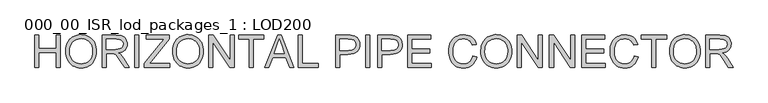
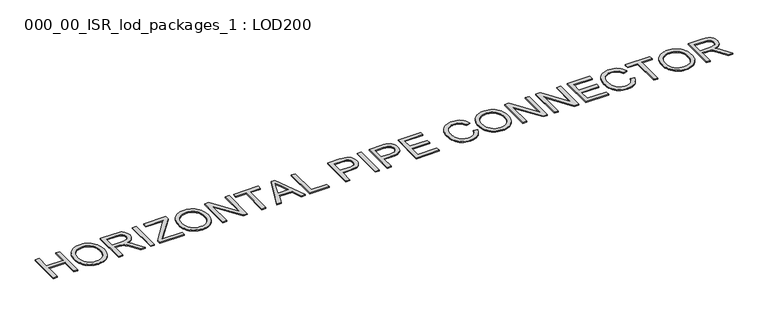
"""IFC4 building model written with IfcOpenShell, lengths in millimetres: proxy geometry, 000_00_ISR_lod_packages_1 : LOD200."""

from ifc_helpers import new_model, si_unit, origin, origin_with_axes, place, context, project, spatial, polyline, outline, extrude, source, transform, mapped, element, save


def proxy_000_00_isr_lod_packages_1_lod200_c8bb9399(model_context):
    return source(origin(), model_context, "Body", "SweptSolid", [
        extrude(outline(polyline([(587.4331389, 500.0), (587.4331389, 1299.3886983), (687.3567262, 1299.3886983), (687.3567262, 974.6370396), (1112.0319722, 974.6370396), (1112.0319722, 1299.3886983), (1211.9555595, 1299.3886983), (1211.9555595, 500.0), (1112.0319722, 500.0), (1112.0319722, 874.7134523), (687.3567262, 874.7134523), (687.3567262, 500.0), (587.4331389, 500.0)])), origin_with_axes(), (0.0, 0.0, 1.0), 25.0),
        extrude(outline(polyline([(1349.350492, 889.1555333), (1351.0154785, 937.3822036), (1356.0104381, 982.9192803), (1364.3353708, 1025.7667634), (1375.9902765, 1065.9246528), (1390.9751553, 1103.3929486), (1409.2900071, 1138.1716508), (1430.934832, 1170.2607594), (1455.90963, 1199.6602743), (1483.5160825, 1225.9615725), (1513.055871, 1248.756031), (1544.5289955, 1268.0436497), (1577.9354561, 1283.8244286), (1613.2752526, 1296.0983678), (1650.5483852, 1304.8654672), (1689.7548537, 1310.1257269), (1730.8946583, 1311.8791468), (1784.6743332, 1308.5857668), (1835.7461178, 1298.7056269), (1884.1100123, 1282.2387272), (1929.7660166, 1259.1850675), (1971.4333719, 1230.239917), (2007.8313192, 1196.0985449), (2038.9598586, 1156.760951), (2064.8189901, 1112.2271354), (2085.1403641, 1063.5095075), (2099.6556313, 1011.6204767), (2108.3647917, 956.560043), (2111.2678451, 898.3282064), (2108.2123204, 839.3279144), (2099.0457462, 783.5234208), (2083.7681225, 730.9147255), (2062.3794494, 681.5018285), (2035.3859315, 636.5898841), (2003.2937735, 597.4840466), (1966.1029754, 564.184316), (1923.8135373, 536.6906922), (1878.0904456, 515.1739432), (1830.5986869, 499.8048367), (1781.3382612, 490.5833729), (1730.3091685, 487.5095516), (1675.5902705, 490.906612), (1623.8476122, 501.0977933), (1575.0811935, 518.0830955), (1529.2910144, 541.8625185), (1487.67245, 571.5151358), (1451.4208751, 606.1200207), (1420.5362898, 645.6771732), (1395.018694, 690.1865934), (1375.0388556, 737.8613176), (1360.7675425, 786.9143824), (1352.2047546, 837.3457876), (1349.350492, 889.1555333)]), holes=[polyline([(1449.2740793, 888.179717), (1454.2690389, 821.9339892), (1469.2539177, 763.1288605), (1494.2287156, 711.7643309), (1529.1934328, 667.8404005), (1571.6963307, 632.6622236), (1619.285671, 607.5349543), (1671.9614537, 592.4585927), (1729.7236788, 587.4331389), (1788.4739178, 592.5073835), (1841.7717834, 607.7301176), (1889.6172755, 633.1013409), (1932.0103941, 668.6210536), (1950.6042684, 689.9822819), (1966.7189594, 713.4720094), (1991.5107919, 766.8369624), (2006.3858913, 828.7159123), (2011.3442578, 899.1088594), (2009.2218574, 944.8380499), (2002.8546561, 987.5666054), (1992.2426541, 1027.2945258), (1977.3858512, 1064.0218111), (1958.4489165, 1097.266652), (1935.5965189, 1126.5472394), (1908.8286585, 1151.863573), (1878.1453353, 1173.2156531), (1844.4979701, 1190.1643621), (1808.8379838, 1202.2705829), (1771.1653765, 1209.5343153), (1731.4801481, 1211.9555595), (1675.7244453, 1207.2899379), (1623.9939846, 1193.2930731), (1576.2887661, 1169.9649651), (1532.6087898, 1137.3056139), (1513.077217, 1117.0833461), (1496.1498539, 1093.7415157), (1481.8267006, 1067.2801226), (1470.1077569, 1037.6991669), (1460.9930229, 1004.9986484), (1454.4824987, 969.1785673), (1449.2740793, 888.179717)])]), origin_with_axes(), (0.0, 0.0, 1.0), 25.0),
        extrude(outline(polyline([(2248.6627776, 500.0), (2248.6627776, 1299.3886983), (2593.1259252, 1299.3886983), (2685.706495, 1293.9973134), (2722.5374608, 1287.2580822), (2753.0622139, 1277.8231585), (2779.0555201, 1264.966779), (2802.2921453, 1247.9631803), (2822.7720895, 1226.8123624), (2840.4953528, 1201.5143252), (2854.7971601, 1173.4291129), (2865.0127368, 1143.9167692), (2871.1420829, 1112.9772942), (2873.1851982, 1080.6106879), (2869.8003355, 1039.5532178), (2859.6457473, 1001.8623139), (2842.7214336, 967.5379762), (2819.0273945, 936.5802046), (2788.2586874, 909.9770132), (2750.1103696, 888.716416), (2704.5824412, 872.7984129), (2651.6749022, 862.2230039), (2684.6087017, 840.7062549), (2708.4674098, 819.4822508), (2749.4029028, 770.9353907), (2789.4601612, 716.6312146), (2922.7566653, 500.0), (2806.6345278, 500.0), (2702.6125121, 665.6936047), (2627.4746584, 775.3753548), (2599.5419173, 807.3577335), (2574.6829975, 827.1911994), (2551.1414297, 838.8278086), (2527.1607446, 846.2196169), (2469.1972574, 849.7325555), (2348.5863649, 849.7325555), (2348.5863649, 500.0), (2248.6627776, 500.0)]), holes=[polyline([(2348.5863649, 949.6561428), (2572.2434568, 949.6561428), (2636.4765636, 953.1934768), (2686.3163802, 963.8054789), (2723.8365162, 982.1996158), (2738.7543076, 994.5802849), (2751.1105813, 1009.0833544), (2767.7238535, 1041.602432), (2773.2616109, 1076.902586), (2770.6208081, 1102.4567749), (2762.6983997, 1125.6446093), (2749.4943856, 1146.4660892), (2731.0087659, 1164.9212147), (2706.8146209, 1180.0341693), (2676.4850311, 1190.829137), (2640.0199964, 1197.3061175), (2597.4195169, 1199.465111), (2348.5863649, 1199.465111), (2348.5863649, 949.6561428)])]), origin_with_axes(), (0.0, 0.0, 1.0), 25.0),
        extrude(outline(polyline([(3060.5419244, 500.0), (3060.5419244, 1299.3886983), (3160.4655117, 1299.3886983), (3160.4655117, 500.0), (3060.5419244, 500.0)])), origin_with_axes(), (0.0, 0.0, 1.0), 25.0),
        extrude(outline(polyline([(3297.8604442, 500.0), (3297.8604442, 603.6316892), (3706.7274664, 1104.2254419), (3784.4024425, 1199.465111), (3347.8222378, 1199.465111), (3347.8222378, 1299.3886983), (3909.8924164, 1299.3886983), (3909.8924164, 1199.465111), (3462.3830694, 651.6418502), (3420.227806, 599.9235873), (3922.3828648, 599.9235873), (3922.3828648, 500.0), (3297.8604442, 500.0)])), origin_with_axes(), (0.0, 0.0, 1.0), 25.0),
        extrude(outline(polyline([(3997.3255552, 889.1555333), (3998.9905418, 937.3822036), (4003.9855014, 982.9192803), (4012.310434, 1025.7667634), (4023.9653397, 1065.9246528), (4038.9502185, 1103.3929486), (4057.2650704, 1138.1716508), (4078.9098953, 1170.2607594), (4103.8846933, 1199.6602743), (4131.4911458, 1225.9615725), (4161.0309343, 1248.756031), (4192.5040588, 1268.0436497), (4225.9105193, 1283.8244286), (4261.2503159, 1296.0983678), (4298.5234484, 1304.8654672), (4337.729917, 1310.1257269), (4378.8697216, 1311.8791468), (4432.6493964, 1308.5857668), (4483.7211811, 1298.7056269), (4532.0850756, 1282.2387272), (4577.7410799, 1259.1850675), (4619.4084351, 1230.239917), (4655.8063824, 1196.0985449), (4686.9349218, 1156.760951), (4712.7940533, 1112.2271354), (4733.1154274, 1063.5095075), (4747.6306946, 1011.6204767), (4756.3398549, 956.560043), (4759.2429084, 898.3282064), (4756.1873836, 839.3279144), (4747.0208094, 783.5234208), (4731.7431858, 730.9147255), (4710.3545126, 681.5018285), (4683.3609947, 636.5898841), (4651.2688367, 597.4840466), (4614.0780387, 564.184316), (4571.7886006, 536.6906922), (4526.0655089, 515.1739432), (4478.5737502, 499.8048367), (4429.3133245, 490.5833729), (4378.2842318, 487.5095516), (4323.5653338, 490.906612), (4271.8226754, 501.0977933), (4223.0562567, 518.0830955), (4177.2660777, 541.8625185), (4135.6475132, 571.5151358), (4099.3959384, 606.1200207), (4068.511353, 645.6771732), (4042.9937573, 690.1865934), (4023.0139189, 737.8613176), (4008.7426057, 786.9143824), (4000.1798179, 837.3457876), (3997.3255552, 889.1555333)]), holes=[polyline([(4097.2491425, 888.179717), (4102.2441021, 821.9339892), (4117.2289809, 763.1288605), (4142.2037789, 711.7643309), (4177.168496, 667.8404005), (4219.671394, 632.6622236), (4267.2607343, 607.5349543), (4319.936517, 592.4585927), (4377.698742, 587.4331389), (4436.4489811, 592.5073835), (4489.7468466, 607.7301176), (4537.5923387, 633.1013409), (4579.9854573, 668.6210536), (4598.5793316, 689.9822819), (4614.6940227, 713.4720094), (4639.4858551, 766.8369624), (4654.3609546, 828.7159123), (4659.3193211, 899.1088594), (4657.1969206, 944.8380499), (4650.8297194, 987.5666054), (4640.2177173, 1027.2945258), (4625.3609144, 1064.0218111), (4606.4239797, 1097.266652), (4583.5715822, 1126.5472394), (4556.8037218, 1151.863573), (4526.1203985, 1173.2156531), (4492.4730334, 1190.1643621), (4456.8130471, 1202.2705829), (4419.1404398, 1209.5343153), (4379.4552113, 1211.9555595), (4323.6995085, 1207.2899379), (4271.9690479, 1193.2930731), (4224.2638294, 1169.9649651), (4180.583853, 1137.3056139), (4161.0522803, 1117.0833461), (4144.1249172, 1093.7415157), (4129.8017638, 1067.2801226), (4118.0828202, 1037.6991669), (4108.9680862, 1004.9986484), (4102.4575619, 969.1785673), (4097.2491425, 888.179717)])]), origin_with_axes(), (0.0, 0.0, 1.0), 25.0),
        extrude(outline(polyline([(4896.6378409, 500.0), (4896.6378409, 1299.3886983), (5003.5873054, 1299.3886983), (5421.2366742, 666.0839312), (5421.2366742, 1299.3886983), (5521.1602615, 1299.3886983), (5521.1602615, 500.0), (5414.2107969, 500.0), (4996.5614282, 1133.4999304), (4996.5614282, 500.0), (4896.6378409, 500.0)])), origin_with_axes(), (0.0, 0.0, 1.0), 25.0),
        extrude(outline(polyline([(5895.8737138, 500.0), (5895.8737138, 1199.465111), (5633.5742972, 1199.465111), (5633.5742972, 1299.3886983), (6258.0967177, 1299.3886983), (6258.0967177, 1199.465111), (5995.7973011, 1199.465111), (5995.7973011, 500.0), (5895.8737138, 500.0)])), origin_with_axes(), (0.0, 0.0, 1.0), 25.0),
        extrude(outline(polyline([(6277.4178801, 500.0), (6596.5098044, 1299.3886983), (6681.6009842, 1299.3886983), (7000.6929085, 500.0), (6895.1095867, 500.0), (6803.5780195, 749.8089682), (6474.3376059, 749.8089682), (6383.0012019, 500.0), (6277.4178801, 500.0)]), holes=[polyline([(6511.0282981, 849.7325555), (6767.0824905, 849.7325555), (6695.0672489, 1046.2619548), (6639.0553943, 1199.465111), (6589.2887639, 1063.4363213), (6511.0282981, 849.7325555)])]), origin_with_axes(), (0.0, 0.0, 1.0), 25.0),
        extrude(outline(polyline([(7107.4472097, 500.0), (7107.4472097, 1299.3886983), (7207.370797, 1299.3886983), (7207.370797, 599.9235873), (7607.0651462, 599.9235873), (7607.0651462, 500.0), (7107.4472097, 500.0)])), origin_with_axes(), (0.0, 0.0, 1.0), 25.0),
        extrude(outline(polyline([(8031.7403922, 500.0), (8031.7403922, 1299.3886983), (8327.9982155, 1299.3886983), (8396.9884266, 1297.4858566), (8447.4381284, 1291.7773313), (8500.693302, 1277.554809), (8544.5318485, 1254.4035677), (8563.1394452, 1239.2174268), (8579.8320025, 1221.274605), (8607.4719987, 1177.1189182), (8617.8888375, 1151.6806075), (8625.3294366, 1125.0347241), (8631.2819159, 1068.1202395), (8627.2627726, 1019.0488782), (8615.2053427, 973.9051774), (8595.1096261, 932.6891372), (8566.975623, 895.4007575), (8549.2813293, 878.842375), (8528.3515947, 864.4917768), (8504.1864193, 852.3489629), (8476.7858031, 842.4139334), (8412.278248, 829.1672274), (8334.8289294, 824.7516587), (8131.6639795, 824.7516587), (8131.6639795, 500.0), (8031.7403922, 500.0)]), holes=[polyline([(8131.6639795, 924.675246), (8340.6838271, 924.675246), (8388.742779, 926.9684143), (8429.2879455, 933.847919), (8462.3193267, 945.3137604), (8487.8369225, 961.3659382), (8506.8775377, 981.5775329), (8520.4779771, 1005.521625), (8528.6382408, 1033.1982143), (8531.3583287, 1064.6073009), (8529.7543306, 1087.92931), (8524.9423366, 1109.4948498), (8516.9223465, 1129.3039204), (8505.6943604, 1147.3565216), (8491.8560658, 1163.0671637), (8476.00515, 1175.850357), (8458.1416132, 1185.7061015), (8438.2654553, 1192.6343971), (8399.7207122, 1197.7574326), (8338.341868, 1199.465111), (8131.6639795, 1199.465111), (8131.6639795, 924.675246)])]), origin_with_axes(), (0.0, 0.0, 1.0), 25.0),
        extrude(outline(polyline([(8781.1672969, 500.0), (8781.1672969, 1299.3886983), (8881.0908842, 1299.3886983), (8881.0908842, 500.0), (8781.1672969, 500.0)])), origin_with_axes(), (0.0, 0.0, 1.0), 25.0),
        extrude(outline(polyline([(9080.9380588, 500.0), (9080.9380588, 1299.3886983), (9377.195882, 1299.3886983), (9446.1860932, 1297.4858566), (9496.635795, 1291.7773313), (9549.8909686, 1277.554809), (9593.729515, 1254.4035677), (9612.3371118, 1239.2174268), (9629.029669, 1221.274605), (9656.6696652, 1177.1189182), (9667.086504, 1151.6806075), (9674.5271032, 1125.0347241), (9680.4795825, 1068.1202395), (9676.4604392, 1019.0488782), (9664.4030093, 973.9051774), (9644.3072927, 932.6891372), (9616.1732895, 895.4007575), (9598.4789958, 878.842375), (9577.5492613, 864.4917768), (9553.3840859, 852.3489629), (9525.9834696, 842.4139334), (9461.4759145, 829.1672274), (9384.026596, 824.7516587), (9180.8616461, 824.7516587), (9180.8616461, 500.0), (9080.9380588, 500.0)]), holes=[polyline([(9180.8616461, 924.675246), (9389.8814937, 924.675246), (9437.9404456, 926.9684143), (9478.4856121, 933.847919), (9511.5169933, 945.3137604), (9537.034589, 961.3659382), (9556.0752043, 981.5775329), (9569.6756437, 1005.521625), (9577.8359073, 1033.1982143), (9580.5559952, 1064.6073009), (9578.9519972, 1087.92931), (9574.1400032, 1109.4948498), (9566.1200131, 1129.3039204), (9554.892027, 1147.3565216), (9541.0537324, 1163.0671637), (9525.2028166, 1175.850357), (9507.3392798, 1185.7061015), (9487.4631219, 1192.6343971), (9448.9183788, 1197.7574326), (9387.5395346, 1199.465111), (9180.8616461, 1199.465111), (9180.8616461, 924.675246)])]), origin_with_axes(), (0.0, 0.0, 1.0), 25.0),
        extrude(outline(polyline([(9817.874515, 500.0), (9817.874515, 1299.3886983), (10392.435142, 1299.3886983), (10392.435142, 1199.465111), (9917.7981023, 1199.465111), (9917.7981023, 962.1465912), (10367.4542452, 962.1465912), (10367.4542452, 862.2230039), (9917.7981023, 862.2230039), (9917.7981023, 599.9235873), (10404.9255904, 599.9235873), (10404.9255904, 500.0), (9817.874515, 500.0)])), origin_with_axes(), (0.0, 0.0, 1.0), 25.0),
        extrude(outline(polyline([(11429.1423601, 784.1577014), (11529.0659474, 758.3961515), (11509.29347, 696.2549509), (11482.9586281, 641.9568736), (11450.0614217, 595.5019198), (11410.6018508, 556.8900892), (11365.4703477, 526.536104), (11315.5573449, 504.854686), (11260.8628423, 491.8458352), (11201.3868399, 487.5095516), (11140.4532119, 490.7907338), (11085.484261, 500.6342806), (11036.4799871, 517.0401918), (10993.4403902, 540.0084676), (10955.7738817, 569.1975721), (10922.888873, 604.2659697), (10894.785364, 645.2136605), (10871.4633549, 692.0406443), (10853.148503, 742.7221025), (10840.066466, 795.2332162), (10832.2172438, 849.5739854), (10829.6008364, 905.7444101), (10832.5587795, 966.0132632), (10841.4326088, 1022.305665), (10856.2223243, 1074.6216155), (10876.9279261, 1122.9611145), (10903.0859013, 1166.5252127), (10934.2327372, 1204.5149603), (10970.3684339, 1236.9303574), (11011.4929914, 1263.771404), (11056.2097725, 1284.8185415), (11103.1221403, 1299.8522111), (11152.2300947, 1308.8724128), (11203.5336357, 1311.8791468), (11260.6859756, 1307.9880793), (11313.0934088, 1296.3148771), (11360.7559353, 1276.8595399), (11403.6735552, 1249.622068), (11441.1388016, 1215.3221256), (11472.4442077, 1174.6793775), (11497.5897735, 1127.6938235), (11516.575499, 1074.3654637), (11416.6519117, 1050.5555464), (11400.9168742, 1089.8504483), (11382.0104337, 1123.4246273), (11359.9325903, 1151.2780833), (11334.683344, 1173.4108163), (11306.1163224, 1190.2741414), (11274.0851529, 1202.3193737), (11238.5898356, 1209.546513), (11199.6303706, 1211.9555595), (11154.8038101, 1209.2842624), (11113.8073286, 1201.2703712), (11076.6409259, 1187.9138858), (11043.3046022, 1169.2148063), (11014.2191781, 1146.0147742), (10989.8054745, 1119.155431), (10970.0634914, 1088.6367768), (10954.9932286, 1054.4588115), (10943.8506265, 1018.1706435), (10935.8916249, 981.3213812), (10931.116224, 943.9110245), (10929.5244237, 905.9395734), (10931.4089689, 858.2221572), (10937.0626045, 813.6273531), (10946.4853304, 772.1551611), (10959.6771468, 733.8055812), (10976.8515134, 699.3409699), (10998.2218899, 669.5236836), (11023.7882765, 644.3537224), (11053.5506731, 623.8310862), (11086.0636519, 607.9069843), (11119.8817849, 596.5326257), (11155.0050722, 589.7080106), (11191.4335138, 587.4331389), (11234.8756349, 590.5313556), (11274.8414105, 599.8260057), (11311.3308406, 615.3170891), (11344.3439252, 637.004606), (11373.1000113, 664.7909746), (11396.8184458, 698.5786134), (11415.4992288, 738.3675223), (11429.1423601, 784.1577014)])), origin_with_axes(), (0.0, 0.0, 1.0), 25.0),
        extrude(outline(polyline([(11628.9895347, 889.1555333), (11630.6545213, 937.3822036), (11635.6494809, 982.9192803), (11643.9744135, 1025.7667634), (11655.6293192, 1065.9246528), (11670.614198, 1103.3929486), (11688.9290499, 1138.1716508), (11710.5738748, 1170.2607594), (11735.5486727, 1199.6602743), (11763.1551252, 1225.9615725), (11792.6949138, 1248.756031), (11824.1680383, 1268.0436497), (11857.5744988, 1283.8244286), (11892.9142954, 1296.0983678), (11930.1874279, 1304.8654672), (11969.3938965, 1310.1257269), (12010.5337011, 1311.8791468), (12064.3133759, 1308.5857668), (12115.3851606, 1298.7056269), (12163.7490551, 1282.2387272), (12209.4050594, 1259.1850675), (12251.0724146, 1230.239917), (12287.4703619, 1196.0985449), (12318.5989013, 1156.760951), (12344.4580328, 1112.2271354), (12364.7794069, 1063.5095075), (12379.2946741, 1011.6204767), (12388.0038344, 956.560043), (12390.9068878, 898.3282064), (12387.8513631, 839.3279144), (12378.6847889, 783.5234208), (12363.4071652, 730.9147255), (12342.0184921, 681.5018285), (12315.0249742, 636.5898841), (12282.9328162, 597.4840466), (12245.7420182, 564.184316), (12203.45258, 536.6906922), (12157.7294884, 515.1739432), (12110.2377297, 499.8048367), (12060.977304, 490.5833729), (12009.9482113, 487.5095516), (11955.2293133, 490.906612), (11903.4866549, 501.0977933), (11854.7202362, 518.0830955), (11808.9300572, 541.8625185), (11767.3114927, 571.5151358), (11731.0599178, 606.1200207), (11700.1753325, 645.6771732), (11674.6577367, 690.1865934), (11654.6778984, 737.8613176), (11640.4065852, 786.9143824), (11631.8437974, 837.3457876), (11628.9895347, 889.1555333)]), holes=[polyline([(11728.913122, 888.179717), (11733.9080816, 821.9339892), (11748.8929604, 763.1288605), (11773.8677584, 711.7643309), (11808.8324755, 667.8404005), (11851.3353735, 632.6622236), (11898.9247138, 607.5349543), (11951.6004965, 592.4585927), (12009.3627215, 587.4331389), (12068.1129606, 592.5073835), (12121.4108261, 607.7301176), (12169.2563182, 633.1013409), (12211.6494368, 668.6210536), (12230.2433111, 689.9822819), (12246.3580022, 713.4720094), (12271.1498346, 766.8369624), (12286.0249341, 828.7159123), (12290.9833005, 899.1088594), (12288.8609001, 944.8380499), (12282.4936989, 987.5666054), (12271.8816968, 1027.2945258), (12257.0248939, 1064.0218111), (12238.0879592, 1097.266652), (12215.2355616, 1126.5472394), (12188.4677013, 1151.863573), (12157.784378, 1173.2156531), (12124.1370129, 1190.1643621), (12088.4770266, 1202.2705829), (12050.8044192, 1209.5343153), (12011.1191908, 1211.9555595), (11955.363488, 1207.2899379), (11903.6330273, 1193.2930731), (11855.9278088, 1169.9649651), (11812.2478325, 1137.3056139), (11792.7162597, 1117.0833461), (11775.7888967, 1093.7415157), (11761.4657433, 1067.2801226), (11749.7467996, 1037.6991669), (11740.6320657, 1004.9986484), (11734.1215414, 969.1785673), (11728.913122, 888.179717)])]), origin_with_axes(), (0.0, 0.0, 1.0), 25.0),
        extrude(outline(polyline([(12528.3018204, 500.0), (12528.3018204, 1299.3886983), (12635.2512849, 1299.3886983), (13052.9006537, 666.0839312), (13052.9006537, 1299.3886983), (13152.8242409, 1299.3886983), (13152.8242409, 500.0), (13045.8747764, 500.0), (12628.2254077, 1133.4999304), (12628.2254077, 500.0), (12528.3018204, 500.0)])), origin_with_axes(), (0.0, 0.0, 1.0), 25.0),
        extrude(outline(polyline([(13327.6905187, 500.0), (13327.6905187, 1299.3886983), (13434.6399832, 1299.3886983), (13852.289352, 666.0839312), (13852.289352, 1299.3886983), (13952.2129393, 1299.3886983), (13952.2129393, 500.0), (13845.2634748, 500.0), (13427.614106, 1133.4999304), (13427.614106, 500.0), (13327.6905187, 500.0)])), origin_with_axes(), (0.0, 0.0, 1.0), 25.0),
        extrude(outline(polyline([(14127.079217, 500.0), (14127.079217, 1299.3886983), (14701.639844, 1299.3886983), (14701.639844, 1199.465111), (14227.0028043, 1199.465111), (14227.0028043, 962.1465912), (14676.6589472, 962.1465912), (14676.6589472, 862.2230039), (14227.0028043, 862.2230039), (14227.0028043, 599.9235873), (14714.1302924, 599.9235873), (14714.1302924, 500.0), (14127.079217, 500.0)])), origin_with_axes(), (0.0, 0.0, 1.0), 25.0),
        extrude(outline(polyline([(15426.0858519, 784.1577014), (15526.0094391, 758.3961515), (15506.2369617, 696.2549509), (15479.9021198, 641.9568736), (15447.0049134, 595.5019198), (15407.5453425, 556.8900892), (15362.4138394, 526.536104), (15312.5008366, 504.854686), (15257.806334, 491.8458352), (15198.3303316, 487.5095516), (15137.3967036, 490.7907338), (15082.4277527, 500.6342806), (15033.4234788, 517.0401918), (14990.3838819, 540.0084676), (14952.7173734, 569.1975721), (14919.8323647, 604.2659697), (14891.7288557, 645.2136605), (14868.4068466, 692.0406443), (14850.0919948, 742.7221025), (14837.0099577, 795.2332162), (14829.1607355, 849.5739854), (14826.5443281, 905.7444101), (14829.5022712, 966.0132632), (14838.3761005, 1022.305665), (14853.165816, 1074.6216155), (14873.8714178, 1122.9611145), (14900.029393, 1166.5252127), (14931.176229, 1204.5149603), (14967.3119257, 1236.9303574), (15008.4364831, 1263.771404), (15053.1532642, 1284.8185415), (15100.065632, 1299.8522111), (15149.1735864, 1308.8724128), (15200.4771274, 1311.8791468), (15257.6294673, 1307.9880793), (15310.0369005, 1296.3148771), (15357.699427, 1276.8595399), (15400.6170469, 1249.622068), (15438.0822933, 1215.3221256), (15469.3876994, 1174.6793775), (15494.5332652, 1127.6938235), (15513.5189907, 1074.3654637), (15413.5954034, 1050.5555464), (15397.8603659, 1089.8504483), (15378.9539254, 1123.4246273), (15356.876082, 1151.2780833), (15331.6268357, 1173.4108163), (15303.0598141, 1190.2741414), (15271.0286446, 1202.3193737), (15235.5333274, 1209.546513), (15196.5738623, 1211.9555595), (15151.7473018, 1209.2842624), (15110.7508203, 1201.2703712), (15073.5844176, 1187.9138858), (15040.2480939, 1169.2148063), (15011.1626698, 1146.0147742), (14986.7489662, 1119.155431), (14967.0069831, 1088.6367768), (14951.9367204, 1054.4588115), (14940.7941182, 1018.1706435), (14932.8351166, 981.3213812), (14928.0597157, 943.9110245), (14926.4679154, 905.9395734), (14928.3524606, 858.2221572), (14934.0060962, 813.6273531), (14943.4288221, 772.1551611), (14956.6206385, 733.8055812), (14973.7950051, 699.3409699), (14995.1653817, 669.5236836), (15020.7317682, 644.3537224), (15050.4941649, 623.8310862), (15083.0071436, 607.9069843), (15116.8252766, 596.5326257), (15151.9485639, 589.7080106), (15188.3770055, 587.4331389), (15231.8191266, 590.5313556), (15271.7849022, 599.8260057), (15308.2743323, 615.3170891), (15341.2874169, 637.004606), (15370.043503, 664.7909746), (15393.7619375, 698.5786134), (15412.4427205, 738.3675223), (15426.0858519, 784.1577014)])), origin_with_axes(), (0.0, 0.0, 1.0), 25.0),
        extrude(outline(polyline([(15863.2515463, 500.0), (15863.2515463, 1199.465111), (15600.9521296, 1199.465111), (15600.9521296, 1299.3886983), (16225.4745502, 1299.3886983), (16225.4745502, 1199.465111), (15963.1751336, 1199.465111), (15963.1751336, 500.0), (15863.2515463, 500.0)])), origin_with_axes(), (0.0, 0.0, 1.0), 25.0),
        extrude(outline(polyline([(16300.4172407, 889.1555333), (16302.0822272, 937.3822036), (16307.0771868, 982.9192803), (16315.4021194, 1025.7667634), (16327.0570252, 1065.9246528), (16342.041904, 1103.3929486), (16360.3567558, 1138.1716508), (16382.0015807, 1170.2607594), (16406.9763787, 1199.6602743), (16434.5828312, 1225.9615725), (16464.1226197, 1248.756031), (16495.5957442, 1268.0436497), (16529.0022048, 1283.8244286), (16564.3420013, 1296.0983678), (16601.6151339, 1304.8654672), (16640.8216024, 1310.1257269), (16681.961407, 1311.8791468), (16735.7410818, 1308.5857668), (16786.8128665, 1298.7056269), (16835.176761, 1282.2387272), (16880.8327653, 1259.1850675), (16922.5001205, 1230.239917), (16958.8980679, 1196.0985449), (16990.0266073, 1156.760951), (17015.8857387, 1112.2271354), (17036.2071128, 1063.5095075), (17050.72238, 1011.6204767), (17059.4315403, 956.560043), (17062.3345938, 898.3282064), (17059.279069, 839.3279144), (17050.1124948, 783.5234208), (17034.8348712, 730.9147255), (17013.446198, 681.5018285), (16986.4526801, 636.5898841), (16954.3605222, 597.4840466), (16917.1697241, 564.184316), (16874.880286, 536.6906922), (16829.1571943, 515.1739432), (16781.6654356, 499.8048367), (16732.4050099, 490.5833729), (16681.3759172, 487.5095516), (16626.6570192, 490.906612), (16574.9143608, 501.0977933), (16526.1479421, 518.0830955), (16480.3577631, 541.8625185), (16438.7391987, 571.5151358), (16402.4876238, 606.1200207), (16371.6030385, 645.6771732), (16346.0854427, 690.1865934), (16326.1056043, 737.8613176), (16311.8342912, 786.9143824), (16303.2715033, 837.3457876), (16300.4172407, 889.1555333)]), holes=[polyline([(16400.340828, 888.179717), (16405.3357876, 821.9339892), (16420.3206663, 763.1288605), (16445.2954643, 711.7643309), (16480.2601815, 667.8404005), (16522.7630794, 632.6622236), (16570.3524197, 607.5349543), (16623.0282024, 592.4585927), (16680.7904275, 587.4331389), (16739.5406665, 592.5073835), (16792.838532, 607.7301176), (16840.6840241, 633.1013409), (16883.0771427, 668.6210536), (16901.6710171, 689.9822819), (16917.7857081, 713.4720094), (16942.5775405, 766.8369624), (16957.45264, 828.7159123), (16962.4110065, 899.1088594), (16960.2886061, 944.8380499), (16953.9214048, 987.5666054), (16943.3094028, 1027.2945258), (16928.4525999, 1064.0218111), (16909.5156651, 1097.266652), (16886.6632676, 1126.5472394), (16859.8954072, 1151.863573), (16829.212084, 1173.2156531), (16795.5647188, 1190.1643621), (16759.9047325, 1202.2705829), (16722.2321252, 1209.5343153), (16682.5468968, 1211.9555595), (16626.7911939, 1207.2899379), (16575.0607333, 1193.2930731), (16527.3555148, 1169.9649651), (16483.6755385, 1137.3056139), (16464.1439657, 1117.0833461), (16447.2166026, 1093.7415157), (16432.8934492, 1067.2801226), (16421.1745056, 1037.6991669), (16412.0597716, 1004.9986484), (16405.5492474, 969.1785673), (16400.340828, 888.179717)])]), origin_with_axes(), (0.0, 0.0, 1.0), 25.0),
        extrude(outline(polyline([(17199.7295263, 500.0), (17199.7295263, 1299.3886983), (17544.1926739, 1299.3886983), (17636.7732437, 1293.9973134), (17673.6042095, 1287.2580822), (17704.1289625, 1277.8231585), (17730.1222688, 1264.966779), (17753.358894, 1247.9631803), (17773.8388382, 1226.8123624), (17791.5621014, 1201.5143252), (17805.8639088, 1173.4291129), (17816.0794855, 1143.9167692), (17822.2088315, 1112.9772942), (17824.2519469, 1080.6106879), (17820.8670842, 1039.5532178), (17810.712496, 1001.8623139), (17793.7881823, 967.5379762), (17770.0941432, 936.5802046), (17739.3254361, 909.9770132), (17701.1771183, 888.716416), (17655.6491899, 872.7984129), (17602.7416508, 862.2230039), (17635.6754504, 840.7062549), (17659.5341585, 819.4822508), (17700.4696515, 770.9353907), (17740.5269099, 716.6312146), (17873.823414, 500.0), (17757.7012764, 500.0), (17653.6792608, 665.6936047), (17578.541407, 775.3753548), (17550.608666, 807.3577335), (17525.7497462, 827.1911994), (17502.2081784, 838.8278086), (17478.2274932, 846.2196169), (17420.2640061, 849.7325555), (17299.6531136, 849.7325555), (17299.6531136, 500.0), (17199.7295263, 500.0)]), holes=[polyline([(17299.6531136, 949.6561428), (17523.3102055, 949.6561428), (17587.5433122, 953.1934768), (17637.3831288, 963.8054789), (17674.9032649, 982.1996158), (17689.8210563, 994.5802849), (17702.17733, 1009.0833544), (17718.7906022, 1041.602432), (17724.3283596, 1076.902586), (17721.6875568, 1102.4567749), (17713.7651483, 1125.6446093), (17700.5611343, 1146.4660892), (17682.0755146, 1164.9212147), (17657.8813696, 1180.0341693), (17627.5517798, 1190.829137), (17591.0867451, 1197.3061175), (17548.4862655, 1199.465111), (17299.6531136, 1199.465111), (17299.6531136, 949.6561428)])]), origin_with_axes(), (0.0, 0.0, 1.0), 25.0),
    ])


if __name__ == "__main__":
    model = new_model("IFC4")
    model_context = context("Model", 3, world=origin())
    ifc_project = project(units=[si_unit("LENGTHUNIT", "METRE", prefix="MILLI")], contexts=[model_context])
    site = spatial("IfcSite", under=ifc_project)
    building = spatial("IfcBuilding", under=site)
    placement = place(None, origin())
    proxy_000_00_isr_lod_packages_1_lod200_shape = proxy_000_00_isr_lod_packages_1_lod200_c8bb9399(model_context)
    element("IfcBuildingElementProxy", 1, Name="000_00_ISR_lod_packages_1 : LOD200", ObjectType="000_00_ISR_lod_packages_1 : LOD200", at=placement, inside=building, context=model_context, shape_type="MappedRepresentation", body=[
        mapped(proxy_000_00_isr_lod_packages_1_lod200_shape, transform((0.0, 0.0, 0.0), x_axis=(1.0, 0.0, 0.0), y_axis=(0.0, 1.0, 0.0), z_axis=(0.0, 0.0, 1.0))),
    ])
    save(model, "model.ifc")
